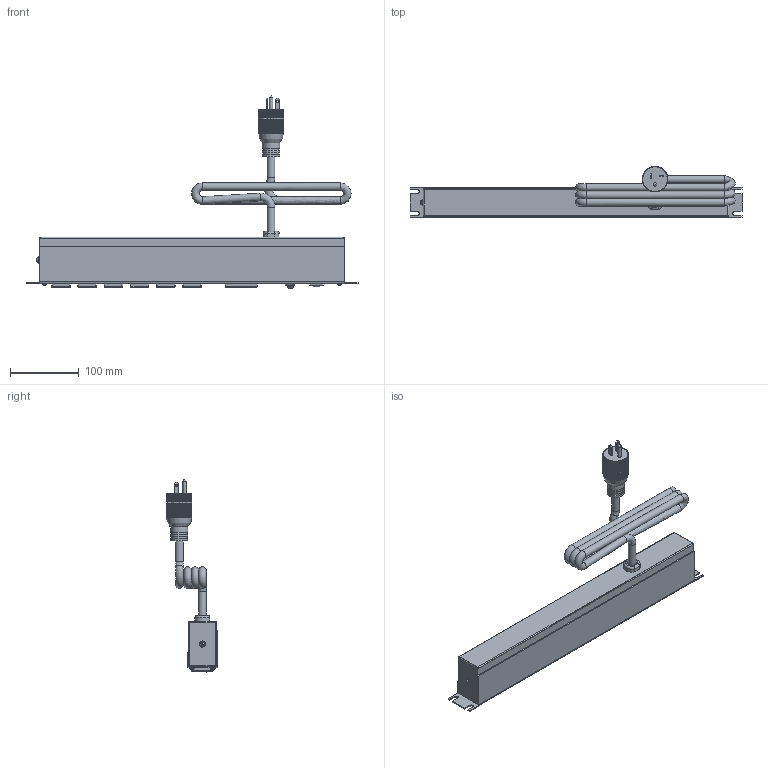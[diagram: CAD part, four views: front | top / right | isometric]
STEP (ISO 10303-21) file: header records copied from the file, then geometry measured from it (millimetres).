
FILE_DESCRIPTION((''),'2;1');
FILE_NAME('E:\Manufacturing\drawings\Updated 2011\1589 AM Series\STEP''s\1589H6F1BKRFAM.stp','2011-03-17T13:14:56',('tfoster'),(''),'Autodesk Inventor 2011','Autodesk Inventor 2011','');
FILE_SCHEMA(('AUTOMOTIVE_DESIGN { 1 0 10303 214 1 1 1 1 }'));
Products named in the file (15): 1589H6F1BKRFAM; 1582H6 Front plate; 1582 Back Plate; Reset Switch 20amp; Power Switch Assembly; Power Switch; Power Switch pt; Amp top; Amp reader; 2-56 x  1875 screw; 20 Amp Receptacle; #6 - 0.375 Type A screw; 20 amp Cored; toothwasher; round head 1-way 8-32 x 0.5 screw
Assembly tree (25 placements, depth 3):
  1589H6F1BKRFAM
    1582H6 Front plate
    1582 Back Plate
    Reset Switch 20amp
    Power Switch Assembly
      Power Switch
      Power Switch pt
    Amp top
    Amp reader
    2-56 x  1875 screw  x4
    20 Amp Receptacle  x6
    #6 - 0.375 Type A screw  x4
    20 amp Cored
    toothwasher
    round head 1-way 8-32 x 0.5 screw
Bounding box: 482.6 x 73.73 x 279.63 mm (x, y, z)
Volume: 453153 mm3; surface area: 322715.2 mm2
Topology: 24 solids, 24 shells, 1337 faces, 4134 edges, 2858 vertices
Faces by surface type: plane 926, cylinder 225, bspline 81, cone 47, sphere 34, torus 24
Full cylindrical faces by diameter (mm): 1 x2, 1.803 x3, 1.905 x2, 2.362 x8, 2.997 x4, 3.2 x2, 4.242 x4, 4.3 x1, 4.801 x1, 4.826 x1, 5.563 x4, 7.849 x1, 11 x4, 12.5 x1, 22.606 x2, 25.146 x3
Entity records: 32192 total; most frequent: CARTESIAN_POINT 10002, ORIENTED_EDGE 4766, DIRECTION 4170, EDGE_CURVE 2383, VERTEX_POINT 1646, VECTOR 1504, LINE 1504, AXIS2_PLACEMENT_3D 1333
